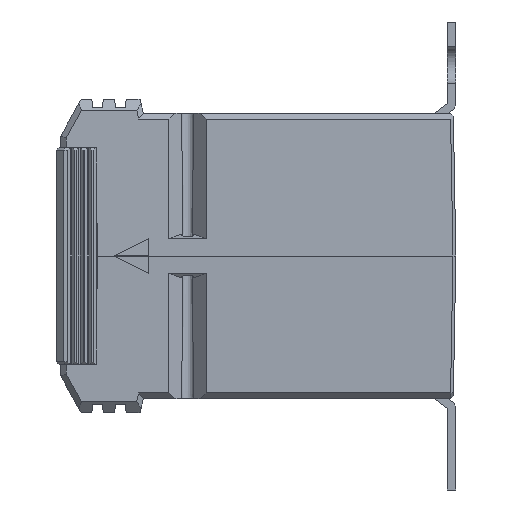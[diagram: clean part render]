
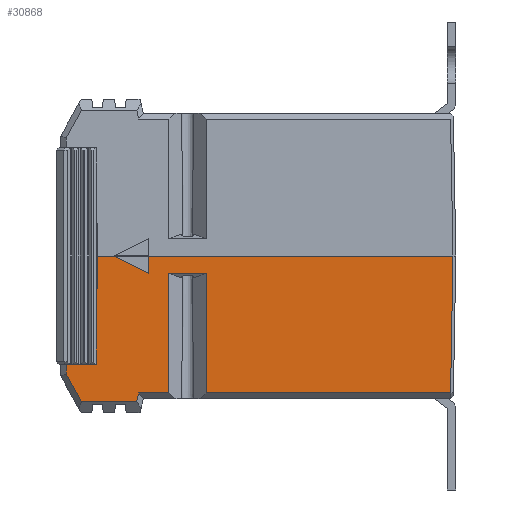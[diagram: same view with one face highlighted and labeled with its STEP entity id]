
A CAD part, left-side view. The second image highlights one B-rep face of the part: STEP entity #30868.
In plain terms, the highlighted planar face has unit normal (-1, 0, -0.018).
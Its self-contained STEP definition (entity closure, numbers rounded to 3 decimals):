
#1537=FACE_OUTER_BOUND('',#3192,.T.);
#3192=EDGE_LOOP('',(#19456,#19457,#19458,#19459,#19460,#19461,#19462,#19463,
#19464,#19465,#19466,#19467,#19468,#19469,#19470,#19471,#19472,#19473));
#4956=LINE('',#40937,#8444);
#4959=LINE('',#40943,#8447);
#4964=LINE('',#40953,#8452);
#5074=LINE('',#41197,#8562);
#5075=LINE('',#41199,#8563);
#5076=LINE('',#41201,#8564);
#5077=LINE('',#41203,#8565);
#5078=LINE('',#41205,#8566);
#5079=LINE('',#41207,#8567);
#5080=LINE('',#41209,#8568);
#5081=LINE('',#41211,#8569);
#5082=LINE('',#41213,#8570);
#5083=LINE('',#41215,#8571);
#5084=LINE('',#41217,#8572);
#5085=LINE('',#41219,#8573);
#5086=LINE('',#41221,#8574);
#5087=LINE('',#41222,#8575);
#5088=LINE('',#41223,#8576);
#8444=VECTOR('',#34160,10.);
#8447=VECTOR('',#34165,10.);
#8452=VECTOR('',#34174,1000.);
#8562=VECTOR('',#34402,1000.);
#8563=VECTOR('',#34403,1000.);
#8564=VECTOR('',#34404,1000.);
#8565=VECTOR('',#34405,1000.);
#8566=VECTOR('',#34406,1000.);
#8567=VECTOR('',#34407,1000.);
#8568=VECTOR('',#34408,1000.);
#8569=VECTOR('',#34409,1000.);
#8570=VECTOR('',#34410,1000.);
#8571=VECTOR('',#34411,1000.);
#8572=VECTOR('',#34412,1000.);
#8573=VECTOR('',#34413,1000.);
#8574=VECTOR('',#34414,1000.);
#8575=VECTOR('',#34415,1000.);
#8576=VECTOR('',#34416,1000.);
#11931=VERTEX_POINT('',#40934);
#11932=VERTEX_POINT('',#40936);
#11934=VERTEX_POINT('',#40942);
#11937=VERTEX_POINT('',#40951);
#11992=VERTEX_POINT('',#41149);
#12012=VERTEX_POINT('',#41196);
#12013=VERTEX_POINT('',#41198);
#12014=VERTEX_POINT('',#41200);
#12015=VERTEX_POINT('',#41202);
#12016=VERTEX_POINT('',#41204);
#12017=VERTEX_POINT('',#41206);
#12018=VERTEX_POINT('',#41208);
#12019=VERTEX_POINT('',#41210);
#12020=VERTEX_POINT('',#41212);
#12021=VERTEX_POINT('',#41214);
#12022=VERTEX_POINT('',#41216);
#12023=VERTEX_POINT('',#41218);
#12024=VERTEX_POINT('',#41220);
#14790=EDGE_CURVE('',#11932,#11931,#4956,.T.);
#14793=EDGE_CURVE('',#11931,#11934,#4959,.T.);
#14798=EDGE_CURVE('',#11934,#11937,#4964,.T.);
#14921=EDGE_CURVE('',#11937,#12012,#5074,.T.);
#14922=EDGE_CURVE('',#12012,#12013,#5075,.T.);
#14923=EDGE_CURVE('',#12014,#12013,#5076,.T.);
#14924=EDGE_CURVE('',#12014,#12015,#5077,.T.);
#14925=EDGE_CURVE('',#12015,#12016,#5078,.T.);
#14926=EDGE_CURVE('',#12016,#12017,#5079,.T.);
#14927=EDGE_CURVE('',#12018,#12017,#5080,.T.);
#14928=EDGE_CURVE('',#12018,#12019,#5081,.T.);
#14929=EDGE_CURVE('',#12019,#12020,#5082,.T.);
#14930=EDGE_CURVE('',#12020,#12021,#5083,.T.);
#14931=EDGE_CURVE('',#12021,#12022,#5084,.T.);
#14932=EDGE_CURVE('',#12023,#12022,#5085,.T.);
#14933=EDGE_CURVE('',#12024,#12023,#5086,.T.);
#14934=EDGE_CURVE('',#12024,#11992,#5087,.T.);
#14935=EDGE_CURVE('',#11992,#11932,#5088,.T.);
#19456=ORIENTED_EDGE('',*,*,#14790,.T.);
#19457=ORIENTED_EDGE('',*,*,#14793,.T.);
#19458=ORIENTED_EDGE('',*,*,#14798,.T.);
#19459=ORIENTED_EDGE('',*,*,#14921,.T.);
#19460=ORIENTED_EDGE('',*,*,#14922,.T.);
#19461=ORIENTED_EDGE('',*,*,#14923,.F.);
#19462=ORIENTED_EDGE('',*,*,#14924,.T.);
#19463=ORIENTED_EDGE('',*,*,#14925,.T.);
#19464=ORIENTED_EDGE('',*,*,#14926,.T.);
#19465=ORIENTED_EDGE('',*,*,#14927,.F.);
#19466=ORIENTED_EDGE('',*,*,#14928,.T.);
#19467=ORIENTED_EDGE('',*,*,#14929,.T.);
#19468=ORIENTED_EDGE('',*,*,#14930,.T.);
#19469=ORIENTED_EDGE('',*,*,#14931,.T.);
#19470=ORIENTED_EDGE('',*,*,#14932,.F.);
#19471=ORIENTED_EDGE('',*,*,#14933,.F.);
#19472=ORIENTED_EDGE('',*,*,#14934,.T.);
#19473=ORIENTED_EDGE('',*,*,#14935,.T.);
#28090=PLANE('',#32558);
#30868=ADVANCED_FACE('',(#1537),#28090,.T.);
#32558=AXIS2_PLACEMENT_3D('',#41195,#34400,#34401);
#34160=DIRECTION('',(0.017,-0.017,-1.));
#34165=DIRECTION('',(0.017,0.,-1.));
#34174=DIRECTION('',(0.,1.,0.));
#34400=DIRECTION('center_axis',(-1.,0.,
-0.017));
#34401=DIRECTION('ref_axis',(-0.017,0.,1.));
#34402=DIRECTION('',(0.017,-0.017,-1.));
#34403=DIRECTION('',(0.015,-0.485,-0.875));
#34404=DIRECTION('',(0.,1.,0.));
#34405=DIRECTION('',(-0.017,-0.216,0.976));
#34406=DIRECTION('',(0.,-1.,0.));
#34407=DIRECTION('',(-0.017,0.005,1.));
#34408=DIRECTION('',(0.,1.,0.));
#34409=DIRECTION('',(0.017,0.005,-1.));
#34410=DIRECTION('',(0.,-1.,0.));
#34411=DIRECTION('',(-0.017,-0.017,1.));
#34412=DIRECTION('',(0.,1.,0.));
#34413=DIRECTION('',(-0.017,0.,1.));
#34414=DIRECTION('',(0.008,-0.894,-0.447));
#34415=DIRECTION('',(0.,1.,0.));
#34416=DIRECTION('',(0.017,0.017,-1.));
#40934=CARTESIAN_POINT('',(-24.45,34.018,-17.187));
#40936=CARTESIAN_POINT('',(-24.475,34.043,-15.755));
#40937=CARTESIAN_POINT('',(-24.917,34.485,9.544));
#40942=CARTESIAN_POINT('',(-24.418,34.018,-19.));
#40943=CARTESIAN_POINT('',(-24.916,34.018,9.499));
#40951=CARTESIAN_POINT('',(-24.418,39.268,-19.));
#40953=CARTESIAN_POINT('',(-24.418,40.6,-19.));
#41149=CARTESIAN_POINT('',(-24.75,33.768,0.));
#41195=CARTESIAN_POINT('Origin',(-24.75,40.6,0.));
#41196=CARTESIAN_POINT('',(-24.388,39.238,-20.715));
#41197=CARTESIAN_POINT('',(-24.75,39.6,0.017));
#41198=CARTESIAN_POINT('',(-24.305,36.586,-25.5));
#41199=CARTESIAN_POINT('',(-24.675,48.343,-4.29));
#41200=CARTESIAN_POINT('',(-24.305,26.903,-25.5));
#41201=CARTESIAN_POINT('',(-24.305,40.6,-25.5));
#41202=CARTESIAN_POINT('',(-24.331,26.57,-24.));
#41203=CARTESIAN_POINT('',(-24.679,22.156,-4.088));
#41204=CARTESIAN_POINT('',(-24.331,21.254,-24.));
#41205=CARTESIAN_POINT('',(-24.331,-28.564,-24.));
#41206=CARTESIAN_POINT('',(-24.698,21.362,-3.));
#41207=CARTESIAN_POINT('',(-24.752,21.378,0.098));
#41208=CARTESIAN_POINT('',(-24.698,14.638,-3.));
#41209=CARTESIAN_POINT('',(-24.698,40.6,-3.));
#41210=CARTESIAN_POINT('',(-24.331,14.746,-24.));
#41211=CARTESIAN_POINT('',(-24.748,14.623,-0.133));
#41212=CARTESIAN_POINT('',(-24.331,-28.081,-24.));
#41213=CARTESIAN_POINT('',(-24.331,-28.564,-24.));
#41214=CARTESIAN_POINT('',(-24.75,-28.5,0.));
#41215=CARTESIAN_POINT('',(-24.729,-28.479,-1.205));
#41216=CARTESIAN_POINT('',(-24.75,24.768,0.));
#41217=CARTESIAN_POINT('',(-24.75,40.6,0.));
#41218=CARTESIAN_POINT('',(-24.698,24.768,-3.));
#41219=CARTESIAN_POINT('',(-24.698,24.768,-3.));
#41220=CARTESIAN_POINT('',(-24.75,30.768,0.));
#41221=CARTESIAN_POINT('',(-24.75,30.768,0.));
#41222=CARTESIAN_POINT('',(-24.75,40.6,0.));
#41223=CARTESIAN_POINT('',(-24.748,33.77,-0.119));
